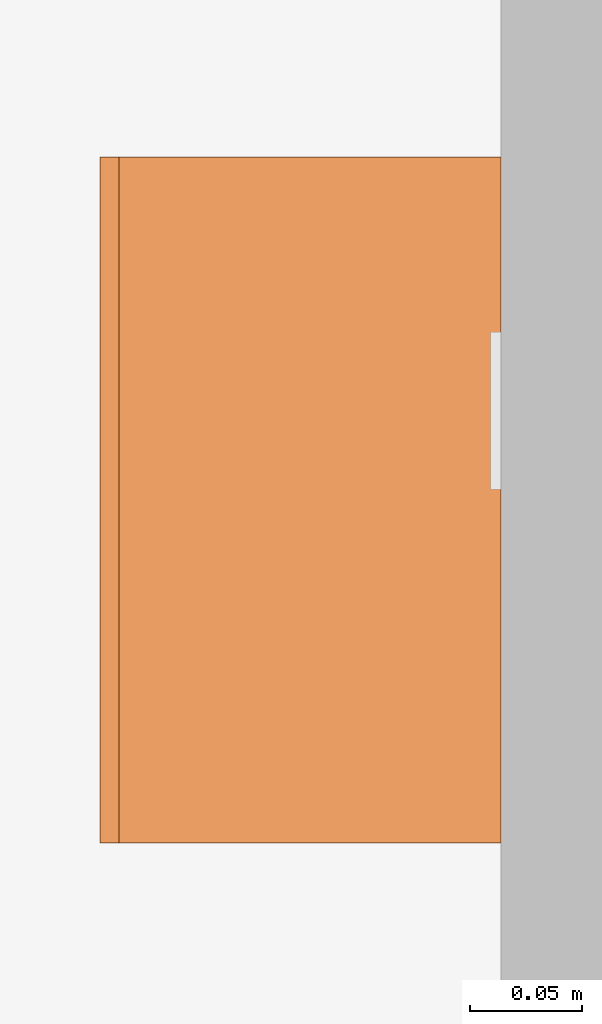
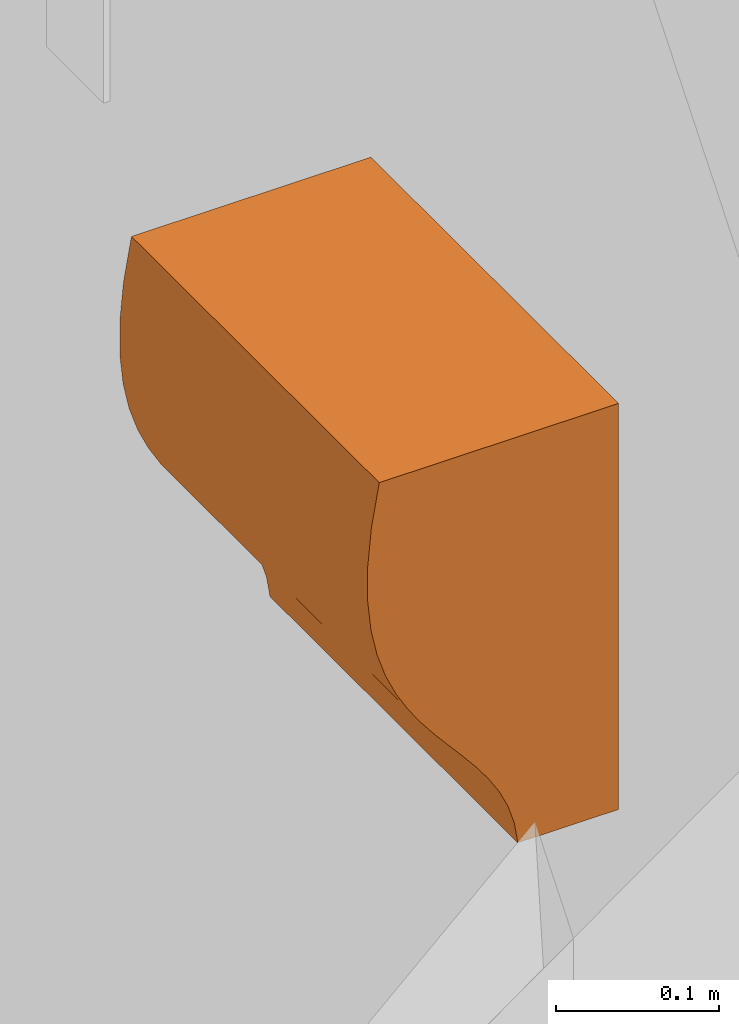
# One storey, part 10 of 14: 1 proxy.
"""IFC2X3 building model written with IfcOpenShell, lengths in feet."""

from ifc_helpers import new_model, entity, si_unit, converted_unit, derived_unit, direction, frame, origin, place, context, subcontext, project, spatial, polyline, outline, extrude, source, transform, mapped, type_object, type_shapes, element, save


model = new_model("IFC2X3")

# Units and contexts
model_context = context("Model", 3, precision=0.0001, world=origin(), true_north=direction((6.12303176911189e-17, 1.0)))
body_context = subcontext(model_context, "Body", "Model", "MODEL_VIEW")
ifc_project = project(units=[converted_unit("LENGTHUNIT", "FOOT", entity("IfcRatioMeasure", 0.3048), si_unit("LENGTHUNIT", "METRE"), dimensions=[1, 0, 0, 0, 0, 0, 0]), converted_unit("AREAUNIT", "SQUARE FOOT", entity("IfcRatioMeasure", 0.09290304), si_unit("AREAUNIT", "SQUARE_METRE"), dimensions=[2, 0, 0, 0, 0, 0, 0]), converted_unit("VOLUMEUNIT", "CUBIC FOOT", entity("IfcRatioMeasure", 0.028316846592), si_unit("VOLUMEUNIT", "CUBIC_METRE"), dimensions=[3, 0, 0, 0, 0, 0, 0]), converted_unit("PLANEANGLEUNIT", "DEGREE", entity("IfcRatioMeasure", 0.0174532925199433), si_unit("PLANEANGLEUNIT", "RADIAN"), dimensions=[0, 0, 0, 0, 0, 0, 0]), si_unit("MASSUNIT", "GRAM", prefix="KILO"), derived_unit("MASSDENSITYUNIT", [(si_unit("MASSUNIT", "GRAM", prefix="KILO"), 1), (si_unit("LENGTHUNIT", "METRE"), -3)]), si_unit("TIMEUNIT", "SECOND"), si_unit("FREQUENCYUNIT", "HERTZ"), si_unit("THERMODYNAMICTEMPERATUREUNIT", "DEGREE_CELSIUS"), derived_unit("THERMALTRANSMITTANCEUNIT", [(si_unit("MASSUNIT", "GRAM", prefix="KILO"), 1), (si_unit("THERMODYNAMICTEMPERATUREUNIT", "KELVIN"), -1), (si_unit("TIMEUNIT", "SECOND"), -3)]), derived_unit("VOLUMETRICFLOWRATEUNIT", [(si_unit("LENGTHUNIT", "METRE"), 3), (si_unit("TIMEUNIT", "SECOND"), -1)]), si_unit("ELECTRICCURRENTUNIT", "AMPERE"), si_unit("ELECTRICVOLTAGEUNIT", "VOLT"), si_unit("POWERUNIT", "WATT"), si_unit("FORCEUNIT", "NEWTON"), si_unit("ILLUMINANCEUNIT", "LUX"), si_unit("LUMINOUSFLUXUNIT", "LUMEN"), si_unit("LUMINOUSINTENSITYUNIT", "CANDELA"), derived_unit("USERDEFINED", [(si_unit("MASSUNIT", "GRAM", prefix="KILO"), -1), (si_unit("LENGTHUNIT", "METRE"), -2), (si_unit("TIMEUNIT", "SECOND"), 3), (si_unit("LUMINOUSFLUXUNIT", "LUMEN"), 1)]), derived_unit("LINEARVELOCITYUNIT", [(si_unit("LENGTHUNIT", "METRE"), 1), (si_unit("TIMEUNIT", "SECOND"), -1)]), si_unit("PRESSUREUNIT", "PASCAL"), derived_unit("USERDEFINED", [(si_unit("LENGTHUNIT", "METRE"), -2), (si_unit("MASSUNIT", "GRAM", prefix="KILO"), 1), (si_unit("TIMEUNIT", "SECOND"), -2)])], contexts=[model_context])

# Site, building, storey, space
site_placement = place(None, origin())
site = spatial("IfcSite", under=ifc_project, at=site_placement, Name="Default", CompositionType="ELEMENT")
building_placement = place(site_placement, origin())
building = spatial("IfcBuilding", under=site, at=building_placement, Name="OUTPATIENT / PACT CLINIC (Ch. 265)", CompositionType="ELEMENT")
storey_placement = place(building_placement, origin())
storey = spatial("IfcBuildingStorey", under=building, at=storey_placement, Name="DATUM", CompositionType="ELEMENT", Elevation=0.0)
space_placement = place(storey_placement, origin())
space = spatial("IfcSpace", under=storey, at=space_placement, Name="TNPG1", CompositionType="ELEMENT", InteriorOrExteriorSpace="INTERNAL")

# Proxy
building_element_proxy_type = type_object("IfcBuildingElementProxyType", Name="A5082 - Dispenser, Paper Towel, Sensor, Hands Free", PredefinedType="NOTDEFINED")
shared_shape = source(origin(), body_context, "Body", "SweptSolid", [
    extrude(outline(polyline([(-0.571680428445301, -0.394840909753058), (0.428319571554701, -0.394840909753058), (0.4283195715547, -0.159932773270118), (0.376442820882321, -0.151554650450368), (0.329481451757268, -0.136660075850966), (0.2864326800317, -0.116260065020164), (0.246293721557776, -0.0913656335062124), (0.208061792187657, -0.0629877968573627), (0.1707341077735, -0.0321375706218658), (0.133307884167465, 0.000174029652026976), (0.0947803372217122, 0.0329359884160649), (0.0541486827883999, 0.0651372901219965), (0.0104101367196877, 0.0957669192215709), (-0.0374380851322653, 0.123813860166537), (-0.0903987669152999, 0.148267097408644), (-0.149474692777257, 0.168115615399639), (-0.215668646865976, 0.182348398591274), (-0.2899834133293, 0.189954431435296), (-0.373421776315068, 0.189922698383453), (-0.466986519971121, 0.181242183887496), (-0.571680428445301, 0.162901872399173), (-0.571680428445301, -0.394840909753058)])), frame((0.0, 0.394840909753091, 0.428319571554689), z_axis=(1.0, 0.0, 0.0), x_axis=(0.0, 0.0, -1.0)), (0.0, 0.0, 1.0), 1.0),
])
type_shapes(building_element_proxy_type, [shared_shape])
proxy_placement = place(space_placement, frame((332.231443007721, -849.593724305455, 3.5), z_axis=(0.0, 0.0, 1.0), x_axis=(0.0, 1.0, 0.0)))
element("IfcBuildingElementProxy", 1, at=proxy_placement, inside=space, type_object=building_element_proxy_type, Name="A5082 - Dispenser, Paper Towel, Sensor, Hands Free:A5082 - Dispenser, Paper Towel, Sensor, Hands Free", ObjectType="A5082 - Dispenser, Paper Towel, Sensor, Hands Free", context=body_context, shape_type="MappedRepresentation", body=[
    mapped(shared_shape, transform((0.0, 0.0, 0.0), scale=1.0)),
])

save(model, "model.ifc")
